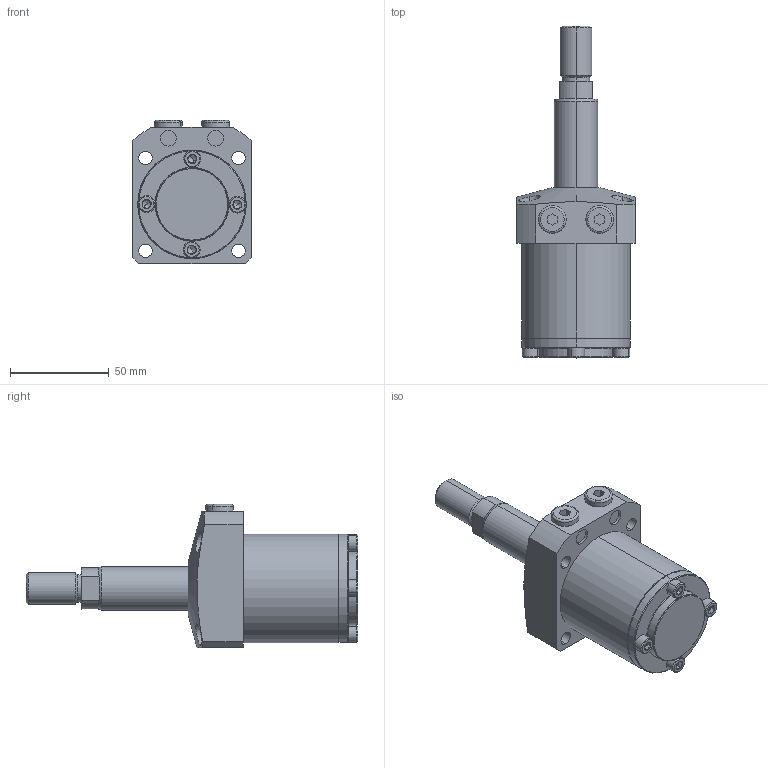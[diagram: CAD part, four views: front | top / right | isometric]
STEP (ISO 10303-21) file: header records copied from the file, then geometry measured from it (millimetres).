
FILE_DESCRIPTION (( 'STEP AP203' ), '1' );
FILE_NAME ('680550-CT-045.step', '2016-11-02T03:23:43', ( 'wxp' ), ( '' ), 'SwSTEP 2.0', 'SolidWorks 2011', '' );
FILE_SCHEMA (( 'CONFIG_CONTROL_DESIGN' ));
Length unit declared in the file: millimetre
Products named in the file (6): 葩璃 680550-45-12^680550-CT-045; 葩璃 68055-CA-15-5^680550-CT-045; 葩璃 68055-CA-15-4^680550-CT-045; 葩璃 68055-CA-15-3^680550-CT-045; 葩璃 68055-CA-45-1^680550-CT-045; 680550-CT-045
Assembly tree (9 placements, depth 2):
  680550-CT-045
    葩璃 68055-CA-15-5^680550-CT-045  x2
    葩璃 68055-CA-15-4^680550-CT-045  x4
    葩璃 68055-CA-15-3^680550-CT-045
    葩璃 680550-45-12^680550-CT-045
    葩璃 68055-CA-45-1^680550-CT-045
Bounding box: 60 x 168 x 72.5 mm (x, y, z)
Volume: 252747.9 mm3; surface area: 42124.4 mm2
Topology: 9 solids, 9 shells, 278 faces, 552 edges, 309 vertices
Faces by surface type: plane 109, cylinder 81, cone 72, torus 16
Entity records: 5442 total; most frequent: CARTESIAN_POINT 1166, DIRECTION 821, ORIENTED_EDGE 668, AXIS2_PLACEMENT_3D 342, EDGE_CURVE 334, VERTEX_POINT 202, EDGE_LOOP 192, CIRCLE 171
